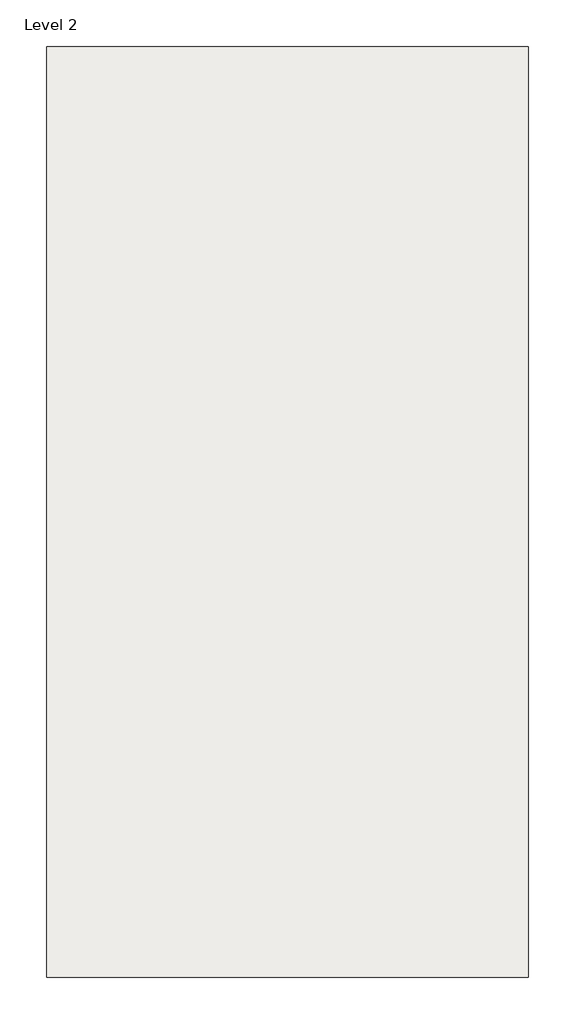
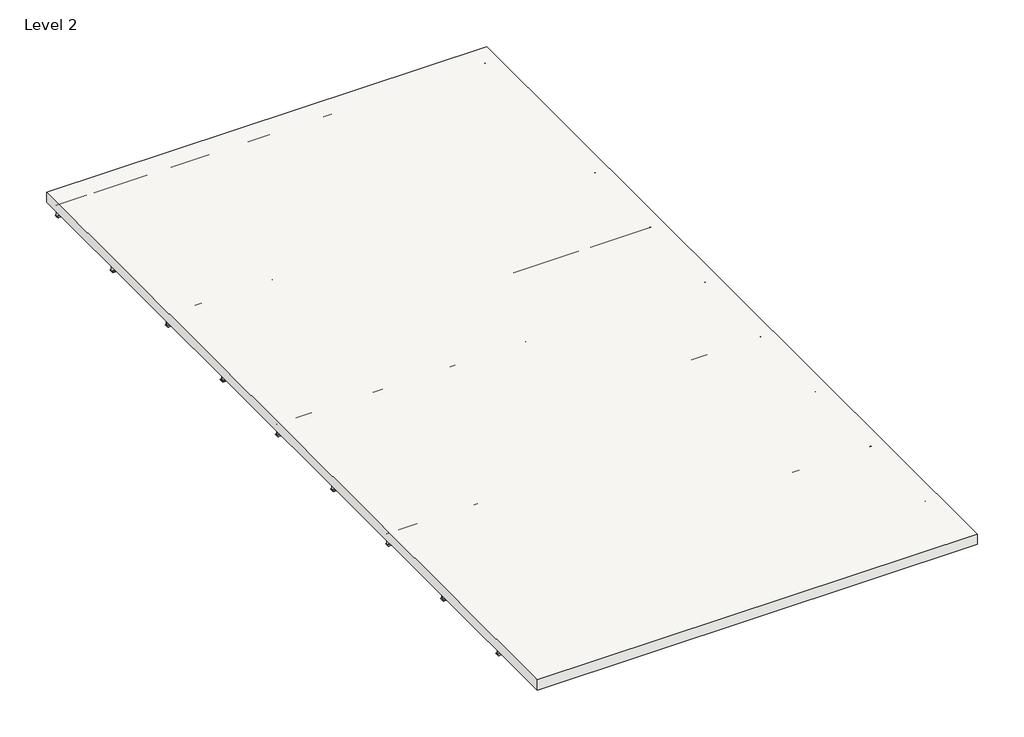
# One storey: 9 beams, 1 slab.
"""IFC4 building model written with IfcOpenShell, lengths in millimetres."""

import ifcopenshell
import ifcopenshell.guid

model = None  # the IFC model being written
_history = None  # IfcOwnerHistory: only IFC2X3 demands one
_inside = {}  # id of a spatial element -> (the spatial element, [elements in it])
_under = {}  # id of a project, library or spatial element -> (it, [spatial elements below it])
_declared = {}  # id of a project -> (the project, [libraries it declares])
_typed = {}  # id of a type object -> (the type object, [elements of that type])
_made_of = {}  # id of a material, layer set ... -> (it, [elements and type objects made of it])


def new_model(schema):
    """Start an empty IFC model of exactly this schema.

    Asked for "IFC4X3", IfcOpenShell would pick the latest addendum, in which some entities
    have other attributes; the version numbers below select the first issue.
    IFC2X3 requires an IfcOwnerHistory on every rooted entity: one is made here for all.
    """
    global model, _history
    if schema == "IFC4X3":
        model = ifcopenshell.file(schema_version=(4, 3, 0, 0))
    else:
        model = ifcopenshell.file(schema=schema)
    _inside.clear()
    _under.clear()
    _declared.clear()
    _typed.clear()
    _made_of.clear()
    _history = None
    if model.schema == "IFC2X3":
        org = make("IfcOrganization", Name="unknown")
        user = make(
            "IfcPersonAndOrganization",
            ThePerson=make("IfcPerson", FamilyName="unknown"),
            TheOrganization=org,
        )
        app = make(
            "IfcApplication",
            ApplicationDeveloper=org,
            Version="unknown",
            ApplicationFullName="unknown",
            ApplicationIdentifier="unknown",
        )
        _history = make(
            "IfcOwnerHistory",
            OwningUser=user,
            OwningApplication=app,
            ChangeAction="ADDED",
            CreationDate=0,
        )
    return model


def make(cls, **values):
    """One entity of the class cls with the attributes given. An attribute that is None is left unset."""
    return model.create_entity(
        cls, **{name: value for name, value in values.items() if value is not None}
    )


def rooted(cls, **values):
    """An entity with a GlobalId (a new one), such as an element, a storey or a relation."""
    return make(cls, GlobalId=ifcopenshell.guid.new(), OwnerHistory=_history, **values)


def si_unit(unit_type, name, prefix=None):
    """IfcSIUnit, for example si_unit("LENGTHUNIT", "METRE", prefix="MILLI")."""
    return make("IfcSIUnit", UnitType=unit_type, Prefix=prefix, Name=name)


def assignment(units):
    """IfcUnitAssignment: the units of a project."""
    return None if units is None else make("IfcUnitAssignment", Units=units)


def point(xyz):
    """IfcCartesianPoint."""
    return None if xyz is None else make("IfcCartesianPoint", Coordinates=xyz)


def direction(xyz):
    """IfcDirection."""
    return None if xyz is None else make("IfcDirection", DirectionRatios=xyz)


def frame(location, z_axis=None, x_axis=None):
    """IfcAxis2Placement3D, a coordinate frame: its origin and axes. An axis left out is left unset."""
    return make(
        "IfcAxis2Placement3D",
        Location=point(location),
        Axis=direction(z_axis),
        RefDirection=direction(x_axis),
    )


def frame_2d(location, x_axis=None):
    """IfcAxis2Placement2D, a coordinate frame in the plane: its origin and x axis."""
    return make(
        "IfcAxis2Placement2D", Location=point(location), RefDirection=direction(x_axis)
    )


def origin():
    """The frame at (0, 0, 0) with its axes left unset."""
    return frame((0.0, 0.0, 0.0))


def place(relative_to, where):
    """IfcLocalPlacement: puts the frame where relative to a parent placement (None: the world)."""
    return make(
        "IfcLocalPlacement", PlacementRelTo=relative_to, RelativePlacement=where
    )


def context(
    kind, dimensions, precision=None, world=None, true_north=None, identifier=None
):
    """IfcGeometricRepresentationContext, for example the 3D "Model" context."""
    return make(
        "IfcGeometricRepresentationContext",
        ContextIdentifier=identifier,
        ContextType=kind,
        CoordinateSpaceDimension=dimensions,
        Precision=precision,
        WorldCoordinateSystem=world,
        TrueNorth=true_north,
    )


def project(units=None, contexts=None):
    """IfcProject with its units and contexts."""
    return rooted(
        "IfcProject",
        Name="project",
        RepresentationContexts=contexts,
        UnitsInContext=assignment(units),
    )


def spatial(cls, under=None, at=None, **own):
    """A site, building, storey or space (cls), placed at a placement, below another one or the project."""
    s = rooted(cls, ObjectPlacement=at, **own)
    if under is not None:
        _under.setdefault(under.id(), (under, []))[1].append(s)
    return s


def polyline(points):
    """IfcPolyline through the points."""
    return make("IfcPolyline", Points=[point(p) for p in points])


def circle_curve(where, radius):
    """IfcCircle in the frame where."""
    return make("IfcCircle", Position=where, Radius=radius)


def trimmed(basis, trim1, trim2, sense, master):
    """IfcTrimmedCurve: the piece of a basis curve between two trims."""
    return make(
        "IfcTrimmedCurve",
        BasisCurve=basis,
        Trim1=trim1,
        Trim2=trim2,
        SenseAgreement=sense,
        MasterRepresentation=master,
    )


def segment(curve, same_sense, transition):
    """IfcCompositeCurveSegment."""
    return make(
        "IfcCompositeCurveSegment",
        Transition=transition,
        SameSense=same_sense,
        ParentCurve=curve,
    )


def composite_curve(segments, self_intersect=None):
    """IfcCompositeCurve: segments joined end to end."""
    return make("IfcCompositeCurve", Segments=segments, SelfIntersect=self_intersect)


def outline(outer, holes=None, kind="AREA"):
    """IfcArbitraryClosedProfileDef: a profile drawn as a closed curve; with holes, ...WithVoids."""
    if holes is None:
        return make("IfcArbitraryClosedProfileDef", ProfileType=kind, OuterCurve=outer)
    return make(
        "IfcArbitraryProfileDefWithVoids",
        ProfileType=kind,
        OuterCurve=outer,
        InnerCurves=holes,
    )


def extrude(swept, where, along, depth):
    """IfcExtrudedAreaSolid: the profile swept, set in the frame where, extruded along a direction by depth."""
    return make(
        "IfcExtrudedAreaSolid",
        SweptArea=swept,
        Position=where,
        ExtrudedDirection=direction(along),
        Depth=depth,
    )


def shape(context_of_items, identifier, shape_type, items):
    """IfcShapeRepresentation: the items that make up one representation, for example the "Body"."""
    return make(
        "IfcShapeRepresentation",
        ContextOfItems=context_of_items,
        RepresentationIdentifier=identifier,
        RepresentationType=shape_type,
        Items=items,
    )


def source(mapping_origin, context_of_items, identifier, shape_type, items):
    """IfcRepresentationMap: a shape defined once, which mapped items show again and again."""
    return make(
        "IfcRepresentationMap",
        MappingOrigin=mapping_origin,
        MappedRepresentation=shape(context_of_items, identifier, shape_type, items),
    )


def transform(
    local_origin,
    x_axis=None,
    y_axis=None,
    z_axis=None,
    scale=None,
    scale2=None,
    scale3=None,
    uniform=True,
):
    """IfcCartesianTransformationOperator3D, or its non-uniform kind. x_axis, y_axis, z_axis: its Axis1, 2, 3."""
    if uniform:
        return make(
            "IfcCartesianTransformationOperator3D",
            Axis1=direction(x_axis),
            Axis2=direction(y_axis),
            LocalOrigin=point(local_origin),
            Scale=scale,
            Axis3=direction(z_axis),
        )
    return make(
        "IfcCartesianTransformationOperator3DnonUniform",
        Axis1=direction(x_axis),
        Axis2=direction(y_axis),
        LocalOrigin=point(local_origin),
        Scale=scale,
        Axis3=direction(z_axis),
        Scale2=scale2,
        Scale3=scale3,
    )


def mapped(mapping_source, mapping_target):
    """IfcMappedItem: shows the shape of a source again, moved by a transform."""
    return make(
        "IfcMappedItem", MappingSource=mapping_source, MappingTarget=mapping_target
    )


def made_of(thing, what):
    """Note that an element or type object is made of a material, layer set ...; save() writes the relation."""
    if what is not None:
        _made_of.setdefault(what.id(), (what, []))[1].append(thing)
    return thing


def element(
    cls,
    number,
    at=None,
    inside=None,
    cuts=None,
    type_object=None,
    material=None,
    context=None,
    identifier="Body",
    shape_type=None,
    held_by="IfcProductDefinitionShape",
    body=None,
    shapes=None,
    **own,
):
    """One element of the class cls, such as IfcWall. Its Tag is "e" and its number.

    at: its placement. inside: the storey or other place that contains it. cuts: it is an
    opening in that element (IfcRelVoidsElement). A single representation is given by context,
    identifier, shape_type and body (its items); several are given by shapes. held_by: the class
    of the entity that holds the representations. save() writes the other relations.
    """
    e = rooted(cls, Tag="e%d" % number, ObjectPlacement=at, **own)
    if body is not None:
        shapes = [shape(context, identifier, shape_type, body)]
    if shapes is not None:
        e.Representation = make(held_by, Representations=shapes)
    if inside is not None:
        _inside.setdefault(inside.id(), (inside, []))[1].append(e)
    if cuts is not None:
        rooted(
            "IfcRelVoidsElement", RelatingBuildingElement=cuts, RelatedOpeningElement=e
        )
    if type_object is not None:
        _typed.setdefault(type_object.id(), (type_object, []))[1].append(e)
    return made_of(e, material)


def aggregate(whole, parts):
    """IfcRelAggregates: a whole, such as a stair, and the parts it consists of."""
    return rooted("IfcRelAggregates", RelatingObject=whole, RelatedObjects=parts)


def save(model, path):
    """Write the relations noted so far, then the file.

    IfcRelAggregates (storeys below a building ...), IfcRelContainedInSpatialStructure (elements
    in a storey), IfcRelDefinesByType, IfcRelAssociatesMaterial and IfcRelDeclares: one each for
    every whole, place, type object, material and project.
    """
    for whole, parts in _under.values():
        aggregate(whole, parts)
    for where, things in _inside.values():
        rooted(
            "IfcRelContainedInSpatialStructure",
            RelatedElements=things,
            RelatingStructure=where,
        )
    for kind, things in _typed.values():
        rooted("IfcRelDefinesByType", RelatedObjects=things, RelatingType=kind)
    for what, things in _made_of.values():
        rooted("IfcRelAssociatesMaterial", RelatedObjects=things, RelatingMaterial=what)
    for by, libraries in _declared.values():
        rooted("IfcRelDeclares", RelatingContext=by, RelatedDefinitions=libraries)
    model.write(path)


def w_shapes_w12x26_820af83e(model_context):
    return source(origin(), model_context, "Body", "SweptSolid", [
        extrude(outline(composite_curve([segment(polyline([(82.423, -218.948), (82.423, -228.6), (-82.423, -228.6), (-82.423, -218.948), (-10.541, -218.948)]), True, "CONTINUOUS"), segment(trimmed(circle_curve(frame_2d((-10.541, -211.328)), 7.62), [point((-10.541, -218.948))], [point((-2.921, -211.328))], True, "CARTESIAN"), True, "CONTINUOUS"), segment(polyline([(-2.921, -211.328), (-2.921, 211.328)]), True, "CONTINUOUS"), segment(trimmed(circle_curve(frame_2d((-10.541, 211.328)), 7.62), [point((-2.921, 211.328))], [point((-10.541, 218.948))], True, "CARTESIAN"), True, "CONTINUOUS"), segment(polyline([(-10.541, 218.948), (-82.423, 218.948), (-82.423, 228.6), (82.423, 228.6), (82.423, 218.948), (10.541, 218.948)]), True, "CONTINUOUS"), segment(trimmed(circle_curve(frame_2d((10.541, 211.328)), 7.62), [point((10.541, 218.948))], [point((2.921, 211.328))], True, "CARTESIAN"), True, "CONTINUOUS"), segment(polyline([(2.921, 211.328), (2.921, -211.328)]), True, "CONTINUOUS"), segment(trimmed(circle_curve(frame_2d((10.541, -211.328)), 7.62), [point((2.921, -211.328))], [point((10.541, -218.948))], True, "CARTESIAN"), True, "CONTINUOUS"), segment(polyline([(10.541, -218.948), (82.423, -218.948)]), True, "CONTINUOUS")], self_intersect=False)), frame((-8060.0, 0.0, 0.0), z_axis=(1.0, 0.0, 0.0), x_axis=(0.0, 1.0, 0.0)), (0.0, 0.0, 1.0), 15900.0),
    ])


model = new_model("IFC4")

# Units and contexts
model_context = context("Model", 3, world=origin())
ifc_project = project(units=[si_unit("LENGTHUNIT", "METRE", prefix="MILLI")], contexts=[model_context])

# Site, building, storey
site = spatial("IfcSite", under=ifc_project)
building = spatial("IfcBuilding", under=site)
storey = spatial("IfcBuildingStorey", under=building, Name="Level 2", Elevation=5000.0)

# Beams
placement = place(None, origin())
w_shapes_w12x26_shape = w_shapes_w12x26_820af83e(model_context)
element("IfcBeam", 1, ObjectType="W Shapes : W12X26", at=placement, inside=storey, context=model_context, shape_type="MappedRepresentation", body=[
    mapped(w_shapes_w12x26_shape, transform((17085.3362243, 16122.841194, 4771.4), x_axis=(-1.0, 0.0, 0.0), y_axis=(0.0, -1.0, 0.0), z_axis=(0.0, 0.0, 1.0))),
])
element("IfcBeam", 2, ObjectType="W Shapes : W12X26", at=placement, inside=storey, context=model_context, shape_type="MappedRepresentation", body=[
    mapped(w_shapes_w12x26_shape, transform((17085.3362243, 5518.185194, 4771.4), x_axis=(-1.0, 0.0, 0.0), y_axis=(0.0, -1.0, 0.0), z_axis=(0.0, 0.0, 1.0))),
])
element("IfcBeam", 3, ObjectType="W Shapes : W12X26", at=placement, inside=storey, context=model_context, shape_type="MappedRepresentation", body=[
    mapped(w_shapes_w12x26_shape, transform((17085.3362243, 12587.9558606, 4771.4), x_axis=(-1.0, 0.0, 0.0), y_axis=(0.0, -1.0, 0.0), z_axis=(0.0, 0.0, 1.0))),
])
element("IfcBeam", 4, ObjectType="W Shapes : W12X26", at=placement, inside=storey, context=model_context, shape_type="MappedRepresentation", body=[
    mapped(w_shapes_w12x26_shape, transform((17085.3362243, 9053.0705273, 4771.4), x_axis=(-1.0, 0.0, 0.0), y_axis=(0.0, -1.0, 0.0), z_axis=(0.0, 0.0, 1.0))),
])
element("IfcBeam", 5, ObjectType="W Shapes : W12X26", at=placement, inside=storey, context=model_context, shape_type="MappedRepresentation", body=[
    mapped(w_shapes_w12x26_shape, transform((17085.3362243, -5086.470806, 4771.4), x_axis=(-1.0, 0.0, 0.0), y_axis=(0.0, -1.0, 0.0), z_axis=(0.0, 0.0, 1.0))),
])
element("IfcBeam", 6, ObjectType="W Shapes : W12X26", at=placement, inside=storey, context=model_context, shape_type="MappedRepresentation", body=[
    mapped(w_shapes_w12x26_shape, transform((17085.3362243, 1983.2998606, 4771.4), x_axis=(-1.0, 0.0, 0.0), y_axis=(0.0, -1.0, 0.0), z_axis=(0.0, 0.0, 1.0))),
])
element("IfcBeam", 7, ObjectType="W Shapes : W12X26", at=placement, inside=storey, context=model_context, shape_type="MappedRepresentation", body=[
    mapped(w_shapes_w12x26_shape, transform((17085.3362243, -1551.5854727, 4771.4), x_axis=(-1.0, 0.0, 0.0), y_axis=(0.0, -1.0, 0.0), z_axis=(0.0, 0.0, 1.0))),
])
element("IfcBeam", 8, ObjectType="W Shapes : W12X26", at=placement, inside=storey, context=model_context, shape_type="MappedRepresentation", body=[
    mapped(w_shapes_w12x26_shape, transform((17085.3362243, -8621.3561394, 4771.4), x_axis=(-1.0, 0.0, 0.0), y_axis=(0.0, -1.0, 0.0), z_axis=(0.0, 0.0, 1.0))),
])
element("IfcBeam", 9, ObjectType="W Shapes : W12X26", at=placement, inside=storey, context=model_context, shape_type="MappedRepresentation", body=[
    mapped(w_shapes_w12x26_shape, transform((17085.3362243, -12156.2414727, 4771.4), x_axis=(-1.0, 0.0, 0.0), y_axis=(0.0, -1.0, 0.0), z_axis=(0.0, 0.0, 1.0))),
])

# Slab
element("IfcSlab", 10, ObjectType="Floor 40 cm", at=placement, inside=storey, context=model_context, shape_type="SweptSolid", body=[
    extrude(outline(polyline([(9045.3362243, 16405.264194), (25345.3362243, 16405.264194), (25345.3362243, -15094.735806), (9045.3362243, -15094.735806), (9045.3362243, 16405.264194)])), frame((0.0, 0.0, 5000.0), z_axis=(0.0, 0.0, 1.0), x_axis=(1.0, 0.0, 0.0)), (0.0, 0.0, 1.0), 400.0),
])

save(model, "model.ifc")
